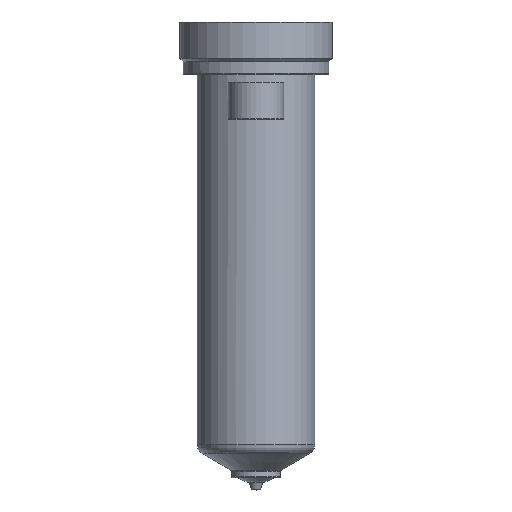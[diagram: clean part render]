
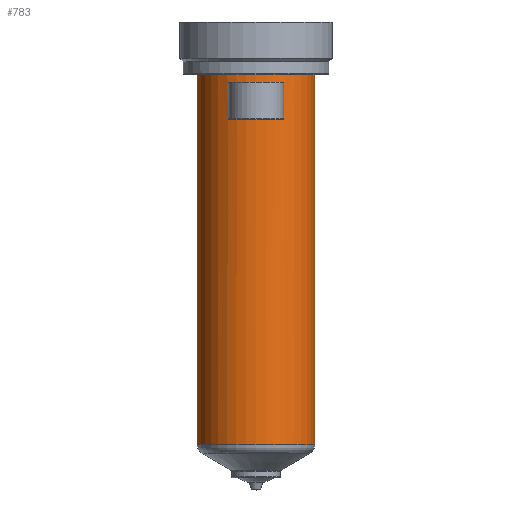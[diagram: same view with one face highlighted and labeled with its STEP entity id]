
A CAD part, top view. The second image highlights one B-rep face of the part: STEP entity #783.
In plain terms, the highlighted cylindrical face has radius 17 mm (diameter 34 mm), a partial arc.
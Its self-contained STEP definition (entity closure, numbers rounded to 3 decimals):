
#191=DIRECTION('',(0.,-1.,0.));
#192=VECTOR('',#191,106.906);
#193=CARTESIAN_POINT('',(17.,0.,0.));
#194=LINE('',#193,#192);
#195=CARTESIAN_POINT('',(0.,-106.906,0.));
#196=DIRECTION('',(0.,1.,0.));
#197=DIRECTION('',(-1.,0.,0.));
#198=AXIS2_PLACEMENT_3D('',#195,#196,#197);
#200=DIRECTION('',(0.,1.,0.));
#201=VECTOR('',#200,106.906);
#202=CARTESIAN_POINT('',(-17.,-106.906,0.));
#203=LINE('',#202,#201);
#204=CARTESIAN_POINT('',(0.,0.,0.));
#205=DIRECTION('',(0.,1.,0.));
#206=DIRECTION('',(-1.,0.,0.));
#207=AXIS2_PLACEMENT_3D('',#204,#205,#206);
#353=DIRECTION('',(0.,1.,0.));
#354=VECTOR('',#353,10.5);
#355=CARTESIAN_POINT('',(-8.,-13.,15.));
#356=LINE('',#355,#354);
#357=CARTESIAN_POINT('',(0.,-13.,0.));
#358=DIRECTION('',(0.,1.,0.));
#359=DIRECTION('',(-0.471,0.,0.882));
#360=AXIS2_PLACEMENT_3D('',#357,#358,#359);
#383=CARTESIAN_POINT('',(0.,-2.5,0.));
#384=DIRECTION('',(0.,-1.,0.));
#385=DIRECTION('',(0.471,0.,0.882));
#386=AXIS2_PLACEMENT_3D('',#383,#384,#385);
#401=DIRECTION('',(0.,1.,0.));
#402=VECTOR('',#401,10.5);
#403=CARTESIAN_POINT('',(8.,-13.,15.));
#404=LINE('',#403,#402);
#462=CARTESIAN_POINT('',(-17.,0.,0.));
#463=CARTESIAN_POINT('',(17.,0.,0.));
#464=VERTEX_POINT('',#462);
#465=VERTEX_POINT('',#463);
#474=CARTESIAN_POINT('',(-8.,-2.5,15.));
#475=VERTEX_POINT('',#474);
#476=CARTESIAN_POINT('',(8.,-2.5,15.));
#477=VERTEX_POINT('',#476);
#514=CARTESIAN_POINT('',(17.,-106.906,0.));
#515=VERTEX_POINT('',#514);
#524=CARTESIAN_POINT('',(-17.,-106.906,0.));
#525=VERTEX_POINT('',#524);
#542=CARTESIAN_POINT('',(-8.,-13.,15.));
#543=CARTESIAN_POINT('',(8.,-13.,15.));
#544=VERTEX_POINT('',#542);
#545=VERTEX_POINT('',#543);
#761=CARTESIAN_POINT('',(0.,16.4,0.));
#762=DIRECTION('',(0.,-1.,0.));
#763=DIRECTION('',(-1.,0.,0.));
#764=AXIS2_PLACEMENT_3D('',#761,#762,#763);
#765=CYLINDRICAL_SURFACE('',#764,17.);
#766=ORIENTED_EDGE('',*,*,#755,.T.);
#768=ORIENTED_EDGE('',*,*,#767,.F.);
#769=ORIENTED_EDGE('',*,*,#751,.T.);
#770=ORIENTED_EDGE('',*,*,#741,.T.);
#771=EDGE_LOOP('',(#766,#768,#769,#770));
#772=FACE_OUTER_BOUND('',#771,.F.);
#774=ORIENTED_EDGE('',*,*,#773,.F.);
#776=ORIENTED_EDGE('',*,*,#775,.T.);
#778=ORIENTED_EDGE('',*,*,#777,.T.);
#780=ORIENTED_EDGE('',*,*,#779,.T.);
#781=EDGE_LOOP('',(#774,#776,#778,#780));
#782=FACE_BOUND('',#781,.F.);
#783=ADVANCED_FACE('',(#772,#782),#765,.T.);
#199=CIRCLE('',#198,17.);
#208=CIRCLE('',#207,17.);
#361=CIRCLE('',#360,17.);
#387=CIRCLE('',#386,17.);
#741=EDGE_CURVE('',#464,#465,#208,.T.);
#751=EDGE_CURVE('',#525,#464,#203,.T.);
#755=EDGE_CURVE('',#465,#515,#194,.T.);
#767=EDGE_CURVE('',#525,#515,#199,.T.);
#773=EDGE_CURVE('',#544,#475,#356,.T.);
#775=EDGE_CURVE('',#544,#545,#361,.T.);
#777=EDGE_CURVE('',#545,#477,#404,.T.);
#779=EDGE_CURVE('',#477,#475,#387,.T.);
